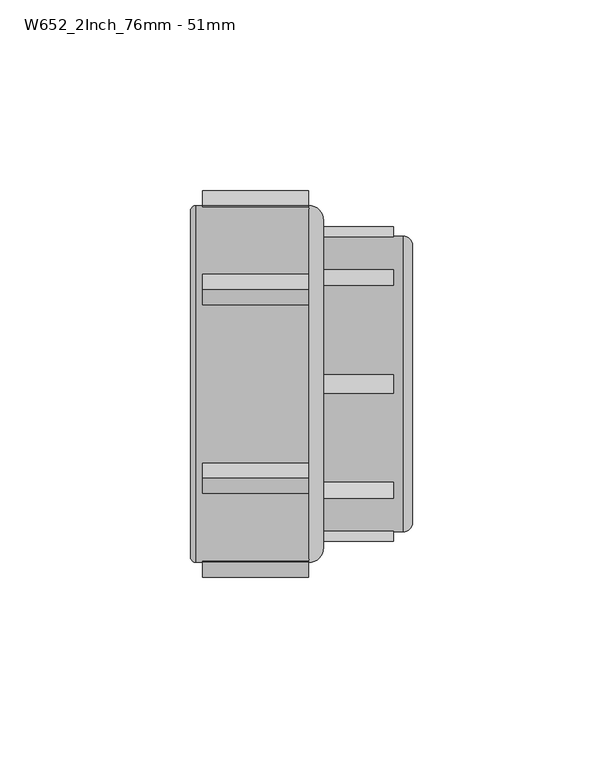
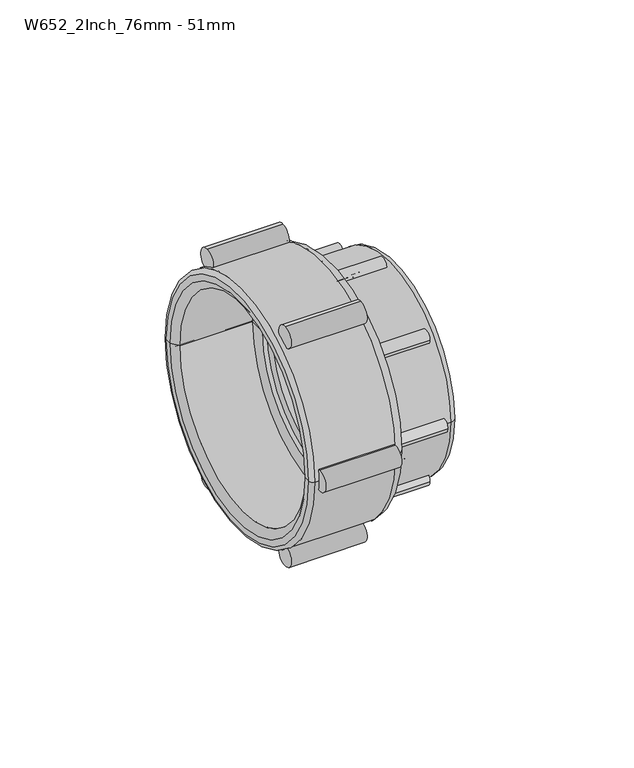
"""IFC4 building model written with IfcOpenShell, lengths in millimetres: pipe fitting geometry, Durapipe_PipeFitting_VulcatheneMechanical_VerticalInlet_W65 : W652_2Inch_76mm - 51mm."""

import ifcopenshell
import ifcopenshell.guid

model = None  # the IFC model being written
_history = None  # IfcOwnerHistory: only IFC2X3 demands one
_inside = {}  # id of a spatial element -> (the spatial element, [elements in it])
_under = {}  # id of a project, library or spatial element -> (it, [spatial elements below it])
_declared = {}  # id of a project -> (the project, [libraries it declares])
_typed = {}  # id of a type object -> (the type object, [elements of that type])
_made_of = {}  # id of a material, layer set ... -> (it, [elements and type objects made of it])


def new_model(schema):
    """Start an empty IFC model of exactly this schema.

    Asked for "IFC4X3", IfcOpenShell would pick the latest addendum, in which some entities
    have other attributes; the version numbers below select the first issue.
    IFC2X3 requires an IfcOwnerHistory on every rooted entity: one is made here for all.
    """
    global model, _history
    if schema == "IFC4X3":
        model = ifcopenshell.file(schema_version=(4, 3, 0, 0))
    else:
        model = ifcopenshell.file(schema=schema)
    _inside.clear()
    _under.clear()
    _declared.clear()
    _typed.clear()
    _made_of.clear()
    _history = None
    if model.schema == "IFC2X3":
        org = make("IfcOrganization", Name="unknown")
        user = make(
            "IfcPersonAndOrganization",
            ThePerson=make("IfcPerson", FamilyName="unknown"),
            TheOrganization=org,
        )
        app = make(
            "IfcApplication",
            ApplicationDeveloper=org,
            Version="unknown",
            ApplicationFullName="unknown",
            ApplicationIdentifier="unknown",
        )
        _history = make(
            "IfcOwnerHistory",
            OwningUser=user,
            OwningApplication=app,
            ChangeAction="ADDED",
            CreationDate=0,
        )
    return model


def make(cls, **values):
    """One entity of the class cls with the attributes given. An attribute that is None is left unset."""
    return model.create_entity(
        cls, **{name: value for name, value in values.items() if value is not None}
    )


def rooted(cls, **values):
    """An entity with a GlobalId (a new one), such as an element, a storey or a relation."""
    return make(cls, GlobalId=ifcopenshell.guid.new(), OwnerHistory=_history, **values)


def si_unit(unit_type, name, prefix=None):
    """IfcSIUnit, for example si_unit("LENGTHUNIT", "METRE", prefix="MILLI")."""
    return make("IfcSIUnit", UnitType=unit_type, Prefix=prefix, Name=name)


def assignment(units):
    """IfcUnitAssignment: the units of a project."""
    return None if units is None else make("IfcUnitAssignment", Units=units)


def point(xyz):
    """IfcCartesianPoint."""
    return None if xyz is None else make("IfcCartesianPoint", Coordinates=xyz)


def direction(xyz):
    """IfcDirection."""
    return None if xyz is None else make("IfcDirection", DirectionRatios=xyz)


def frame(location, z_axis=None, x_axis=None):
    """IfcAxis2Placement3D, a coordinate frame: its origin and axes. An axis left out is left unset."""
    return make(
        "IfcAxis2Placement3D",
        Location=point(location),
        Axis=direction(z_axis),
        RefDirection=direction(x_axis),
    )


def frame_2d(location, x_axis=None):
    """IfcAxis2Placement2D, a coordinate frame in the plane: its origin and x axis."""
    return make(
        "IfcAxis2Placement2D", Location=point(location), RefDirection=direction(x_axis)
    )


def origin():
    """The frame at (0, 0, 0) with its axes left unset."""
    return frame((0.0, 0.0, 0.0))


def place(relative_to, where):
    """IfcLocalPlacement: puts the frame where relative to a parent placement (None: the world)."""
    return make(
        "IfcLocalPlacement", PlacementRelTo=relative_to, RelativePlacement=where
    )


def context(
    kind, dimensions, precision=None, world=None, true_north=None, identifier=None
):
    """IfcGeometricRepresentationContext, for example the 3D "Model" context."""
    return make(
        "IfcGeometricRepresentationContext",
        ContextIdentifier=identifier,
        ContextType=kind,
        CoordinateSpaceDimension=dimensions,
        Precision=precision,
        WorldCoordinateSystem=world,
        TrueNorth=true_north,
    )


def project(units=None, contexts=None):
    """IfcProject with its units and contexts."""
    return rooted(
        "IfcProject",
        Name="project",
        RepresentationContexts=contexts,
        UnitsInContext=assignment(units),
    )


def spatial(cls, under=None, at=None, **own):
    """A site, building, storey or space (cls), placed at a placement, below another one or the project."""
    s = rooted(cls, ObjectPlacement=at, **own)
    if under is not None:
        _under.setdefault(under.id(), (under, []))[1].append(s)
    return s


def polyline(points):
    """IfcPolyline through the points."""
    return make("IfcPolyline", Points=[point(p) for p in points])


def circle_curve(where, radius):
    """IfcCircle in the frame where."""
    return make("IfcCircle", Position=where, Radius=radius)


def ellipse_curve(where, semi_axis1, semi_axis2):
    """IfcEllipse in the frame where."""
    return make(
        "IfcEllipse", Position=where, SemiAxis1=semi_axis1, SemiAxis2=semi_axis2
    )


def trimmed(basis, trim1, trim2, sense, master):
    """IfcTrimmedCurve: the piece of a basis curve between two trims."""
    return make(
        "IfcTrimmedCurve",
        BasisCurve=basis,
        Trim1=trim1,
        Trim2=trim2,
        SenseAgreement=sense,
        MasterRepresentation=master,
    )


def segment(curve, same_sense, transition):
    """IfcCompositeCurveSegment."""
    return make(
        "IfcCompositeCurveSegment",
        Transition=transition,
        SameSense=same_sense,
        ParentCurve=curve,
    )


def composite_curve(segments, self_intersect=None):
    """IfcCompositeCurve: segments joined end to end."""
    return make("IfcCompositeCurve", Segments=segments, SelfIntersect=self_intersect)


def outline(outer, holes=None, kind="AREA"):
    """IfcArbitraryClosedProfileDef: a profile drawn as a closed curve; with holes, ...WithVoids."""
    if holes is None:
        return make("IfcArbitraryClosedProfileDef", ProfileType=kind, OuterCurve=outer)
    return make(
        "IfcArbitraryProfileDefWithVoids",
        ProfileType=kind,
        OuterCurve=outer,
        InnerCurves=holes,
    )


def extrude(swept, where, along, depth):
    """IfcExtrudedAreaSolid: the profile swept, set in the frame where, extruded along a direction by depth."""
    return make(
        "IfcExtrudedAreaSolid",
        SweptArea=swept,
        Position=where,
        ExtrudedDirection=direction(along),
        Depth=depth,
    )


def shape(context_of_items, identifier, shape_type, items):
    """IfcShapeRepresentation: the items that make up one representation, for example the "Body"."""
    return make(
        "IfcShapeRepresentation",
        ContextOfItems=context_of_items,
        RepresentationIdentifier=identifier,
        RepresentationType=shape_type,
        Items=items,
    )


def source(mapping_origin, context_of_items, identifier, shape_type, items):
    """IfcRepresentationMap: a shape defined once, which mapped items show again and again."""
    return make(
        "IfcRepresentationMap",
        MappingOrigin=mapping_origin,
        MappedRepresentation=shape(context_of_items, identifier, shape_type, items),
    )


def transform(
    local_origin,
    x_axis=None,
    y_axis=None,
    z_axis=None,
    scale=None,
    scale2=None,
    scale3=None,
    uniform=True,
):
    """IfcCartesianTransformationOperator3D, or its non-uniform kind. x_axis, y_axis, z_axis: its Axis1, 2, 3."""
    if uniform:
        return make(
            "IfcCartesianTransformationOperator3D",
            Axis1=direction(x_axis),
            Axis2=direction(y_axis),
            LocalOrigin=point(local_origin),
            Scale=scale,
            Axis3=direction(z_axis),
        )
    return make(
        "IfcCartesianTransformationOperator3DnonUniform",
        Axis1=direction(x_axis),
        Axis2=direction(y_axis),
        LocalOrigin=point(local_origin),
        Scale=scale,
        Axis3=direction(z_axis),
        Scale2=scale2,
        Scale3=scale3,
    )


def mapped(mapping_source, mapping_target):
    """IfcMappedItem: shows the shape of a source again, moved by a transform."""
    return make(
        "IfcMappedItem", MappingSource=mapping_source, MappingTarget=mapping_target
    )


def made_of(thing, what):
    """Note that an element or type object is made of a material, layer set ...; save() writes the relation."""
    if what is not None:
        _made_of.setdefault(what.id(), (what, []))[1].append(thing)
    return thing


def element(
    cls,
    number,
    at=None,
    inside=None,
    cuts=None,
    type_object=None,
    material=None,
    context=None,
    identifier="Body",
    shape_type=None,
    held_by="IfcProductDefinitionShape",
    body=None,
    shapes=None,
    **own,
):
    """One element of the class cls, such as IfcWall. Its Tag is "e" and its number.

    at: its placement. inside: the storey or other place that contains it. cuts: it is an
    opening in that element (IfcRelVoidsElement). A single representation is given by context,
    identifier, shape_type and body (its items); several are given by shapes. held_by: the class
    of the entity that holds the representations. save() writes the other relations.
    """
    e = rooted(cls, Tag="e%d" % number, ObjectPlacement=at, **own)
    if body is not None:
        shapes = [shape(context, identifier, shape_type, body)]
    if shapes is not None:
        e.Representation = make(held_by, Representations=shapes)
    if inside is not None:
        _inside.setdefault(inside.id(), (inside, []))[1].append(e)
    if cuts is not None:
        rooted(
            "IfcRelVoidsElement", RelatingBuildingElement=cuts, RelatedOpeningElement=e
        )
    if type_object is not None:
        _typed.setdefault(type_object.id(), (type_object, []))[1].append(e)
    return made_of(e, material)


def aggregate(whole, parts):
    """IfcRelAggregates: a whole, such as a stair, and the parts it consists of."""
    return rooted("IfcRelAggregates", RelatingObject=whole, RelatedObjects=parts)


def save(model, path):
    """Write the relations noted so far, then the file.

    IfcRelAggregates (storeys below a building ...), IfcRelContainedInSpatialStructure (elements
    in a storey), IfcRelDefinesByType, IfcRelAssociatesMaterial and IfcRelDeclares: one each for
    every whole, place, type object, material and project.
    """
    for whole, parts in _under.values():
        aggregate(whole, parts)
    for where, things in _inside.values():
        rooted(
            "IfcRelContainedInSpatialStructure",
            RelatedElements=things,
            RelatingStructure=where,
        )
    for kind, things in _typed.values():
        rooted("IfcRelDefinesByType", RelatedObjects=things, RelatingType=kind)
    for what, things in _made_of.values():
        rooted("IfcRelAssociatesMaterial", RelatedObjects=things, RelatingMaterial=what)
    for by, libraries in _declared.values():
        rooted("IfcRelDeclares", RelatingContext=by, RelatedDefinitions=libraries)
    model.write(path)


def plane_surface(at):
    """IfcPlane: the flat surface through the origin of the frame at, square to its z axis."""
    return make("IfcPlane", Position=at)


def cylinder_surface(at, radius):
    """IfcCylindricalSurface: all points at the distance radius from the z axis of the frame at."""
    return make("IfcCylindricalSurface", Position=at, Radius=radius)


def revolved_surface(curve, axis_point, axis_direction):
    """IfcSurfaceOfRevolution: the curve turned about the line through axis_point along axis_direction."""
    return make(
        "IfcSurfaceOfRevolution",
        SweptCurve=make("IfcArbitraryOpenProfileDef", ProfileType="CURVE", Curve=curve),
        AxisPosition=make("IfcAxis1Placement", Location=point(axis_point), Axis=direction(axis_direction)),
    )


def advanced_brep(points, edges, surfaces, faces):
    """IfcAdvancedBrep: a solid bounded by faces that lie on surfaces and meet in shared edges.

    An edge is (start, end): straight between two places in points (the first is 0);
    or (start, end, curve); or (start, end, curve, False) where it runs against its curve.
    A face is (place in surfaces, loops), or (place, loops, False) where it looks against
    its surface's normal. A loop lists edges by number (the first is 1), with a minus sign
    where the edge is run from its end to its start. The first loop is the outer one.
    """
    corners = [point(p) for p in points]
    vertices = [make("IfcVertexPoint", VertexGeometry=c) for c in corners]
    made = []
    for start, end, *more in edges:
        made.append(
            make(
                "IfcEdgeCurve",
                EdgeStart=vertices[start],
                EdgeEnd=vertices[end],
                EdgeGeometry=more[0] if more else make("IfcPolyline", Points=[corners[start], corners[end]]),
                SameSense=more[1] if len(more) > 1 else True,
            )
        )
    hull = []
    for where, loops, *sense in faces:
        bounds = []
        for j, loop in enumerate(loops):
            ring = [make("IfcOrientedEdge", EdgeElement=made[abs(k) - 1], Orientation=k > 0) for k in loop]
            bounds.append(
                make(
                    "IfcFaceOuterBound" if j == 0 else "IfcFaceBound",
                    Bound=make("IfcEdgeLoop", EdgeList=ring),
                    Orientation=True,
                )
            )
        hull.append(make("IfcAdvancedFace", Bounds=bounds, FaceSurface=surfaces[where], SameSense=sense[0] if sense else True))
    return make("IfcAdvancedBrep", Outer=make("IfcClosedShell", CfsFaces=hull))


def w652_2inch_76mm_51mm_e3760958(model_context):
    return source(origin(), model_context, "Body", "SolidModel", [
        advanced_brep(
        [(23.95, 22.839549, 22.148203), (23.95, -22.839549, -23.5308951), (23.95, -21.2839141, -21.9752601), (23.95, 21.2839141, 20.5925681), (18.35, 22.3445743, 21.6532283), (18.35, -22.3445743, -23.0359203), (16.95, 21.9203102, 21.2289642), (16.95, -21.9203102, -22.6116562), (18.35, -21.9203102, -22.6116562), (18.35, 21.9203102, 21.2289642), (16.95, 20.9303607, 20.2390147), (16.95, -20.9303607, -21.6217067), (19.25, 20.9303607, 20.2390147), (19.25, -20.9303607, -21.6217067), (19.25, 20.647518, 19.956172), (19.25, -20.647518, -21.338864), (21.45, 21.2839141, 20.5925681), (21.45, -21.2839141, -21.9752601), (21.45, -20.647518, -21.338864), (21.45, 20.647518, 19.956172)],
        [
            (0, 1, circle_curve(frame((23.95, 0.0, -0.691346), z_axis=(1.0, 0.0, 0.0), x_axis=(0.0, -0.7071067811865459, -0.7071067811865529)), 32.3)),
            (1, 2),
            (2, 3, circle_curve(frame((23.95, 0.0, -0.691346), z_axis=(-1.0, 0.0, 0.0), x_axis=(0.0, -0.7071067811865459, -0.7071067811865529)), 30.1)),
            (3, 0),
            (1, 0, circle_curve(frame((23.95, 0.0, -0.691346), z_axis=(1.0, 0.0, 0.0), x_axis=(0.0, -0.7071067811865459, -0.7071067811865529)), 32.3)),
            (3, 2, circle_curve(frame((23.95, 0.0, -0.691346), z_axis=(-1.0, 0.0, 0.0), x_axis=(0.0, -0.7071067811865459, -0.7071067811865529)), 30.1)),
            (4, 5, circle_curve(frame((18.35, 0.0, -0.691346), z_axis=(1.0, 0.0, 0.0), x_axis=(0.0, -0.7071067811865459, -0.7071067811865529)), 31.6)),
            (5, 1),
            (0, 4),
            (5, 4, circle_curve(frame((18.35, 0.0, -0.691346), z_axis=(1.0, 0.0, 0.0), x_axis=(0.0, -0.7071067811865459, -0.7071067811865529)), 31.6)),
            (6, 7, circle_curve(frame((16.95, 0.0, -0.691346), z_axis=(1.0, 0.0, 0.0), x_axis=(0.0, -0.7071067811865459, -0.7071067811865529)), 31.0)),
            (7, 8),
            (8, 9, circle_curve(frame((18.35, 0.0, -0.691346), z_axis=(-1.0, 0.0, 0.0), x_axis=(0.0, -0.7071067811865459, -0.7071067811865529)), 31.0)),
            (9, 6),
            (7, 6, circle_curve(frame((16.95, 0.0, -0.691346), z_axis=(1.0, 0.0, 0.0), x_axis=(0.0, -0.7071067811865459, -0.7071067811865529)), 31.0)),
            (9, 8, circle_curve(frame((18.35, 0.0, -0.691346), z_axis=(-1.0, 0.0, 0.0), x_axis=(0.0, -0.7071067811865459, -0.7071067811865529)), 31.0)),
            (6, 10),
            (10, 11, circle_curve(frame((16.95, 0.0, -0.691346), z_axis=(1.0, 0.0, 0.0), x_axis=(0.0, -0.7071067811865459, -0.7071067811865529)), 29.6)),
            (11, 7),
            (11, 10, circle_curve(frame((16.95, 0.0, -0.691346), z_axis=(1.0, 0.0, 0.0), x_axis=(0.0, -0.7071067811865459, -0.7071067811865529)), 29.6)),
            (10, 12),
            (12, 13, circle_curve(frame((19.25, 0.0, -0.691346), z_axis=(1.0, 0.0, 0.0), x_axis=(0.0, -0.7071067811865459, -0.7071067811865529)), 29.6)),
            (13, 11),
            (13, 12, circle_curve(frame((19.25, 0.0, -0.691346), z_axis=(1.0, 0.0, 0.0), x_axis=(0.0, -0.7071067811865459, -0.7071067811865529)), 29.6)),
            (12, 14),
            (14, 15, circle_curve(frame((19.25, 0.0, -0.691346), z_axis=(1.0, 0.0, 0.0), x_axis=(0.0, -0.7071067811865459, -0.7071067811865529)), 29.2)),
            (15, 13),
            (15, 14, circle_curve(frame((19.25, 0.0, -0.691346), z_axis=(1.0, 0.0, 0.0), x_axis=(0.0, -0.7071067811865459, -0.7071067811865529)), 29.2)),
            (16, 17, circle_curve(frame((21.45, 0.0, -0.691346), z_axis=(1.0, 0.0, 0.0), x_axis=(0.0, -0.7071067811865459, -0.7071067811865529)), 30.1)),
            (17, 18),
            (18, 19, circle_curve(frame((21.45, 0.0, -0.691346), z_axis=(-1.0, 0.0, 0.0), x_axis=(0.0, -0.7071067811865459, -0.7071067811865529)), 29.2)),
            (19, 16),
            (17, 16, circle_curve(frame((21.45, 0.0, -0.691346), z_axis=(1.0, 0.0, 0.0), x_axis=(0.0, -0.7071067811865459, -0.7071067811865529)), 30.1)),
            (19, 18, circle_curve(frame((21.45, 0.0, -0.691346), z_axis=(-1.0, 0.0, 0.0), x_axis=(0.0, -0.7071067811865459, -0.7071067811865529)), 29.2)),
            (2, 17),
            (16, 3),
            (14, 19),
            (18, 15),
            (4, 9),
            (8, 5),
        ],
        [
            plane_surface(frame((23.95, 0.0, -0.691346), z_axis=(1.0, 0.0, 0.0), x_axis=(0.0, -0.707106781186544, -0.707106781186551))),
            revolved_surface(polyline([(23.95, -22.839549, -23.5308951), (18.35, -22.3445743, -23.0359203)]), (28.95, 0.0, -0.691346), (-1.0000000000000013, 0.0, 0.0)),
            cylinder_surface(frame((14.8793443, 0.0, -0.691346), z_axis=(-1.0000000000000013, 0.0, 0.0), x_axis=(0.0, -0.7071067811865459, -0.7071067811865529)), 31.0),
            plane_surface(frame((16.95, 0.0, -0.691346), z_axis=(-1.0, 0.0, 0.0), x_axis=(0.0, -0.707106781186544, -0.707106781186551))),
            revolved_surface(polyline([(16.95000000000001, -20.93036072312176, -21.621706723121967), (19.250000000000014, -20.93036072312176, -21.621706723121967)]), (13.457009, 0.0, -0.691346), (-1.0000000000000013, 0.0, 0.0)),
            plane_surface(frame((19.25, 0.0, -0.691346), z_axis=(-1.0, 0.0, 0.0), x_axis=(0.0, -0.707106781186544, -0.707106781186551))),
            plane_surface(frame((21.45, 0.0, -0.691346), z_axis=(1.0, 0.0, 0.0), x_axis=(0.0, -0.707106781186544, -0.707106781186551))),
            revolved_surface(polyline([(21.44999999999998, -21.28391411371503, -21.975260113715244), (23.949999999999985, -21.28391411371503, -21.975260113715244)]), (28.95, 0.0, -0.691346), (-1.0000000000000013, 0.0, 0.0)),
            revolved_surface(polyline([(19.249999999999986, -20.64751801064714, -21.338864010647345), (21.44999999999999, -20.64751801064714, -21.338864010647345)]), (25.5161924, 0.0, -0.691346), (-1.0000000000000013, 0.0, 0.0)),
            plane_surface(frame((18.35, 0.0, -0.691346), z_axis=(-1.0, 0.0, 0.0), x_axis=(0.0, -0.707106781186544, -0.707106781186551))),
        ],
        [
            (0, [[1, 2, 3, 4]]),
            (0, [[-2, 5, -4, 6]]),
            (1, [[7, 8, -1, 9]]),
            (1, [[10, -9, -5, -8]]),
            (2, [[11, 12, 13, 14]]),
            (2, [[-12, 15, -14, 16]]),
            (3, [[-11, 17, 18, 19]]),
            (3, [[-15, -19, 20, -17]]),
            (4, [[21, 22, 23, -18]]),
            (4, [[-21, -20, -23, 24]]),
            (5, [[-22, 25, 26, 27]]),
            (5, [[-24, -27, 28, -25]]),
            (6, [[29, 30, 31, 32]]),
            (6, [[33, -32, 34, -30]]),
            (7, [[-3, 35, -29, 36]]),
            (7, [[-6, -36, -33, -35]]),
            (8, [[37, -31, 38, -26]]),
            (8, [[-37, -28, -38, -34]]),
            (9, [[-7, 39, -13, 40]]),
            (9, [[-10, -40, -16, -39]]),
        ],
    ),
        advanced_brep(
        [(2.45, 38.8, -0.691346), (2.45, -38.8, -0.691346), (25.35, -38.8, -0.691346), (25.35, 38.8, -0.691346), (2.45, 33.0, -0.691346), (2.45, -33.0, -0.691346), (27.85, 36.3, -0.691346), (27.85, -36.3, -0.691346), (27.85, -31.0, -0.691346), (27.85, 31.0, -0.691346), (23.95, 33.0, -0.691346), (23.95, -33.0, -0.691346), (23.95, 31.0, -0.691346), (23.95, -31.0, -0.691346)],
        [
            (0, 1, circle_curve(frame((2.45, 0.0, -0.691346), z_axis=(1.0, 0.0, 0.0), x_axis=(0.0, -1.0000000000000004, 0.0)), 38.8)),
            (1, 2),
            (2, 3, circle_curve(frame((25.35, 0.0, -0.691346), z_axis=(-1.0, 0.0, 0.0), x_axis=(0.0, -1.0000000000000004, 0.0)), 38.8)),
            (3, 0),
            (1, 0, circle_curve(frame((2.45, 0.0, -0.691346), z_axis=(1.0, 0.0, 0.0), x_axis=(0.0, -1.0000000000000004, 0.0)), 38.8)),
            (3, 2, circle_curve(frame((25.35, 0.0, -0.691346), z_axis=(-1.0, 0.0, 0.0), x_axis=(0.0, -1.0000000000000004, 0.0)), 38.8)),
            (4, 5, circle_curve(frame((2.45, 0.0, -0.691346), z_axis=(1.0, 0.0, 0.0), x_axis=(0.0, -1.0000000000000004, 0.0)), 33.0)),
            (5, 1),
            (0, 4),
            (5, 4, circle_curve(frame((2.45, 0.0, -0.691346), z_axis=(1.0, 0.0, 0.0), x_axis=(0.0, -1.0000000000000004, 0.0)), 33.0)),
            (6, 7, circle_curve(frame((27.85, 0.0, -0.691346), z_axis=(1.0, 0.0, 0.0), x_axis=(0.0, -1.0000000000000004, 0.0)), 36.3)),
            (7, 8),
            (8, 9, circle_curve(frame((27.85, 0.0, -0.691346), z_axis=(-1.0, 0.0, 0.0), x_axis=(0.0, -1.0000000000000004, 0.0)), 31.0)),
            (9, 6),
            (7, 6, circle_curve(frame((27.85, 0.0, -0.691346), z_axis=(1.0, 0.0, 0.0), x_axis=(0.0, -1.0000000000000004, 0.0)), 36.3)),
            (9, 8, circle_curve(frame((27.85, 0.0, -0.691346), z_axis=(-1.0, 0.0, 0.0), x_axis=(0.0, -1.0000000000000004, 0.0)), 31.0)),
            (2, 7, circle_curve(frame((25.35, -36.3, -0.691346), z_axis=(0.0, 0.0, 1.0000000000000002), x_axis=(1.0000000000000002, 0.0, 0.0)), 2.5)),
            (6, 3, circle_curve(frame((25.35, 36.3, -0.691346), z_axis=(0.0, 0.0, 1.0000000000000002), x_axis=(1.0000000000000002, 0.0, 0.0)), 2.5)),
            (10, 11, circle_curve(frame((23.95, 0.0, -0.691346), z_axis=(1.0, 0.0, 0.0), x_axis=(0.0, -1.0000000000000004, 0.0)), 33.0)),
            (11, 5),
            (4, 10),
            (11, 10, circle_curve(frame((23.95, 0.0, -0.691346), z_axis=(1.0, 0.0, 0.0), x_axis=(0.0, -1.0000000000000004, 0.0)), 33.0)),
            (12, 13, circle_curve(frame((23.95, 0.0, -0.691346), z_axis=(1.0, 0.0, 0.0), x_axis=(0.0, -1.0000000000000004, 0.0)), 31.0)),
            (13, 11),
            (10, 12),
            (13, 12, circle_curve(frame((23.95, 0.0, -0.691346), z_axis=(1.0, 0.0, 0.0), x_axis=(0.0, -1.0000000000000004, 0.0)), 31.0)),
            (8, 13),
            (12, 9),
        ],
        [
            cylinder_surface(frame((1588.6518184, 0.0, -0.691346), z_axis=(-1.0000000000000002, 0.0, 0.0), x_axis=(0.0, -1.0000000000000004, 0.0)), 38.8),
            plane_surface(frame((2.45, 0.0, -0.691346), z_axis=(-1.0, 0.0, 0.0), x_axis=(0.0, -1.0, 0.0))),
            plane_surface(frame((27.85, 0.0, -0.691346), z_axis=(1.0, 0.0, 0.0), x_axis=(0.0, -1.0, 0.0))),
            revolved_surface(trimmed(ellipse_curve(frame((25.35, -36.3, -0.691346), z_axis=(0.0, 0.0, -1.0000000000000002), x_axis=(1.0000000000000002, 0.0, 0.0)), 2.5, 2.5), [point((27.85, -36.3, -0.691346))], [point((25.35, -38.8, -0.691346))], True, "CARTESIAN"), (1588.6518184, 0.0, -0.691346), (-1.0000000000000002, 0.0, 0.0)),
            revolved_surface(polyline([(2.449999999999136, -33.000000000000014, -0.691346), (23.949999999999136, -33.000000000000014, -0.691346)]), (1588.6518184, 0.0, -0.691346), (-1.0000000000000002, 0.0, 0.0)),
            plane_surface(frame((23.95, 0.0, -0.691346), z_axis=(-1.0, 0.0, 0.0), x_axis=(0.0, -1.0, 0.0))),
            revolved_surface(polyline([(23.949999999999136, -31.000000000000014, -0.691346), (27.849999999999, -31.000000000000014, -0.691346)]), (1588.6518184, 0.0, -0.691346), (-1.0000000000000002, 0.0, 0.0)),
        ],
        [
            (0, [[1, 2, 3, 4]]),
            (0, [[5, -4, 6, -2]]),
            (1, [[7, 8, -1, 9]]),
            (1, [[10, -9, -5, -8]]),
            (2, [[11, 12, 13, 14]]),
            (2, [[15, -14, 16, -12]]),
            (3, [[-3, 17, -11, 18]]),
            (3, [[-6, -18, -15, -17]]),
            (4, [[19, 20, -7, 21]]),
            (4, [[22, -21, -10, -20]]),
            (5, [[23, 24, -19, 25]]),
            (5, [[26, -25, -22, -24]]),
            (6, [[-13, 27, -23, 28]]),
            (6, [[-16, -28, -26, -27]]),
        ],
    ),
        extrude(outline(composite_curve([segment(trimmed(circle_curve(frame_2d((0.0, -39.491346)), 2.5), [point((2.5, -39.491346))], [point((-2.5, -39.491346))], False, "CARTESIAN"), True, "CONTINUOUS"), segment(trimmed(circle_curve(frame_2d((0.0, -39.491346)), 2.5), [point((-2.5, -39.491346))], [point((2.5, -39.491346))], False, "CARTESIAN"), True, "CONTINUOUS")], self_intersect=False)), frame((2.45, 0.0, 0.0), z_axis=(1.0, 0.0, 0.0), x_axis=(0.0, 1.0, 0.0)), (0.0, 0.0, 1.0), 20.4),
        extrude(outline(composite_curve([segment(trimmed(circle_curve(frame_2d((-27.4357431, -28.1270891)), 2.5), [point((-24.9357431, -28.1270891))], [point((-29.9357431, -28.1270891))], False, "CARTESIAN"), True, "CONTINUOUS"), segment(trimmed(circle_curve(frame_2d((-27.4357431, -28.1270891)), 2.5), [point((-29.9357431, -28.1270891))], [point((-24.9357431, -28.1270891))], False, "CARTESIAN"), True, "CONTINUOUS")], self_intersect=False)), frame((2.45, 0.0, 0.0), z_axis=(1.0, 0.0, 0.0), x_axis=(0.0, 1.0, 0.0)), (0.0, 0.0, 1.0), 20.4),
        extrude(outline(composite_curve([segment(trimmed(circle_curve(frame_2d((-38.8, -0.691346)), 2.5), [point((-36.3, -0.691346))], [point((-41.3, -0.691346))], False, "CARTESIAN"), True, "CONTINUOUS"), segment(trimmed(circle_curve(frame_2d((-38.8, -0.691346)), 2.5), [point((-41.3, -0.691346))], [point((-36.3, -0.691346))], False, "CARTESIAN"), True, "CONTINUOUS")], self_intersect=False)), frame((2.45, 0.0, 0.0), z_axis=(1.0, 0.0, 0.0), x_axis=(0.0, 1.0, 0.0)), (0.0, 0.0, 1.0), 20.4),
        extrude(outline(composite_curve([segment(trimmed(circle_curve(frame_2d((-27.4357431, 26.7443971)), 2.5), [point((-24.9357431, 26.7443971))], [point((-29.9357431, 26.7443971))], False, "CARTESIAN"), True, "CONTINUOUS"), segment(trimmed(circle_curve(frame_2d((-27.4357431, 26.7443971)), 2.5), [point((-29.9357431, 26.7443971))], [point((-24.9357431, 26.7443971))], False, "CARTESIAN"), True, "CONTINUOUS")], self_intersect=False)), frame((2.45, 0.0, 0.0), z_axis=(1.0, 0.0, 0.0), x_axis=(0.0, 1.0, 0.0)), (0.0, 0.0, 1.0), 20.4),
        extrude(outline(composite_curve([segment(trimmed(circle_curve(frame_2d((0.0, 38.108654)), 2.5), [point((2.5, 38.108654))], [point((-2.5, 38.108654))], False, "CARTESIAN"), True, "CONTINUOUS"), segment(trimmed(circle_curve(frame_2d((0.0, 38.108654)), 2.5), [point((-2.5, 38.108654))], [point((2.5, 38.108654))], False, "CARTESIAN"), True, "CONTINUOUS")], self_intersect=False)), frame((2.45, 0.0, 0.0), z_axis=(1.0, 0.0, 0.0), x_axis=(0.0, 1.0, 0.0)), (0.0, 0.0, 1.0), 20.4),
        extrude(outline(composite_curve([segment(trimmed(circle_curve(frame_2d((27.4357431, 26.7443971)), 2.5), [point((29.9357431, 26.7443971))], [point((24.9357431, 26.7443971))], False, "CARTESIAN"), True, "CONTINUOUS"), segment(trimmed(circle_curve(frame_2d((27.4357431, 26.7443971)), 2.5), [point((24.9357431, 26.7443971))], [point((29.9357431, 26.7443971))], False, "CARTESIAN"), True, "CONTINUOUS")], self_intersect=False)), frame((2.45, 0.0, 0.0), z_axis=(1.0, 0.0, 0.0), x_axis=(0.0, 1.0, 0.0)), (0.0, 0.0, 1.0), 20.4),
        extrude(outline(composite_curve([segment(trimmed(circle_curve(frame_2d((38.8, -0.691346)), 2.5), [point((41.3, -0.691346))], [point((36.3, -0.691346))], False, "CARTESIAN"), True, "CONTINUOUS"), segment(trimmed(circle_curve(frame_2d((38.8, -0.691346)), 2.5), [point((36.3, -0.691346))], [point((41.3, -0.691346))], False, "CARTESIAN"), True, "CONTINUOUS")], self_intersect=False)), frame((2.45, 0.0, 0.0), z_axis=(1.0, 0.0, 0.0), x_axis=(0.0, 1.0, 0.0)), (0.0, 0.0, 1.0), 20.4),
        extrude(outline(composite_curve([segment(trimmed(circle_curve(frame_2d((27.4357431, -28.1270891)), 2.5), [point((29.9357431, -28.1270891))], [point((24.9357431, -28.1270891))], False, "CARTESIAN"), True, "CONTINUOUS"), segment(trimmed(circle_curve(frame_2d((27.4357431, -28.1270891)), 2.5), [point((24.9357431, -28.1270891))], [point((29.9357431, -28.1270891))], False, "CARTESIAN"), True, "CONTINUOUS")], self_intersect=False)), frame((2.45, 0.0, 0.0), z_axis=(1.0, 0.0, 0.0), x_axis=(0.0, 1.0, 0.0)), (0.0, 0.0, 1.0), 20.4),
        extrude(outline(composite_curve([segment(trimmed(circle_curve(frame_2d((-46.7488124, 0.0)), 4.0), [point((-46.7488124, -4.0))], [point((-46.7488124, 4.0))], False, "CARTESIAN"), True, "CONTINUOUS"), segment(trimmed(circle_curve(frame_2d((-46.7488124, 0.0)), 4.0), [point((-46.7488124, 4.0))], [point((-46.7488124, -4.0))], False, "CARTESIAN"), True, "CONTINUOUS")], self_intersect=False)), frame((-27.275, 0.0, 0.0), z_axis=(1.0, 0.0, 0.0), x_axis=(0.0, 1.0, 0.0)), (0.0, 0.0, 1.0), 27.78),
        extrude(outline(composite_curve([segment(trimmed(circle_curve(frame_2d((46.7488124, 0.0)), 4.0), [point((46.7488124, -4.0))], [point((46.7488124, 4.0))], False, "CARTESIAN"), True, "CONTINUOUS"), segment(trimmed(circle_curve(frame_2d((46.7488124, 0.0)), 4.0), [point((46.7488124, 4.0))], [point((46.7488124, -4.0))], False, "CARTESIAN"), True, "CONTINUOUS")], self_intersect=False)), frame((-27.275, 0.0, 0.0), z_axis=(1.0, 0.0, 0.0), x_axis=(0.0, 1.0, 0.0)), (0.0, 0.0, 1.0), 27.78),
        extrude(outline(composite_curve([segment(trimmed(circle_curve(frame_2d((-24.7569018, -42.3688127)), 4.0), [point((-24.7569018, -46.3688127))], [point((-24.7569018, -38.3688127))], False, "CARTESIAN"), True, "CONTINUOUS"), segment(trimmed(circle_curve(frame_2d((-24.7569018, -42.3688127)), 4.0), [point((-24.7569018, -38.3688127))], [point((-24.7569018, -46.3688127))], False, "CARTESIAN"), True, "CONTINUOUS")], self_intersect=False)), frame((-27.275, 0.0, 0.0), z_axis=(1.0, 0.0, 0.0), x_axis=(0.0, 1.0, 0.0)), (0.0, 0.0, 1.0), 27.78),
        extrude(outline(composite_curve([segment(trimmed(circle_curve(frame_2d((24.7569018, 42.3688127)), 4.0), [point((24.7569018, 38.3688127))], [point((24.7569018, 46.3688127))], False, "CARTESIAN"), True, "CONTINUOUS"), segment(trimmed(circle_curve(frame_2d((24.7569018, 42.3688127)), 4.0), [point((24.7569018, 46.3688127))], [point((24.7569018, 38.3688127))], False, "CARTESIAN"), True, "CONTINUOUS")], self_intersect=False)), frame((-27.275, 0.0, 0.0), z_axis=(1.0, 0.0, 0.0), x_axis=(0.0, 1.0, 0.0)), (0.0, 0.0, 1.0), 27.78),
        extrude(outline(composite_curve([segment(trimmed(circle_curve(frame_2d((24.7569018, -42.3688127)), 4.0), [point((24.7569018, -46.3688127))], [point((24.7569018, -38.3688127))], False, "CARTESIAN"), True, "CONTINUOUS"), segment(trimmed(circle_curve(frame_2d((24.7569018, -42.3688127)), 4.0), [point((24.7569018, -38.3688127))], [point((24.7569018, -46.3688127))], False, "CARTESIAN"), True, "CONTINUOUS")], self_intersect=False)), frame((-27.275, 0.0, 0.0), z_axis=(1.0, 0.0, 0.0), x_axis=(0.0, 1.0, 0.0)), (0.0, 0.0, 1.0), 27.78),
        extrude(outline(composite_curve([segment(trimmed(circle_curve(frame_2d((-24.7569018, 42.3688127)), 4.0), [point((-24.7569018, 38.3688127))], [point((-24.7569018, 46.3688127))], False, "CARTESIAN"), True, "CONTINUOUS"), segment(trimmed(circle_curve(frame_2d((-24.7569018, 42.3688127)), 4.0), [point((-24.7569018, 46.3688127))], [point((-24.7569018, 38.3688127))], False, "CARTESIAN"), True, "CONTINUOUS")], self_intersect=False)), frame((-27.275, 0.0, 0.0), z_axis=(1.0, 0.0, 0.0), x_axis=(0.0, 1.0, 0.0)), (0.0, 0.0, 1.0), 27.78),
        advanced_brep(
        [(-1.875, -40.0, 0.0), (-1.875, 40.0, 0.0), (-28.3527451, 40.0, 0.0), (-28.3527451, -40.0, 0.0), (-1.875, -33.7292025, 0.0), (-1.875, 33.7292025, 0.0), (-0.2875, -33.7292025, 0.0), (-0.2875, 33.7292025, 0.0), (-0.2875, -29.7427598, 0.0), (-0.2875, 29.7427598, 0.0), (4.475, -29.7427598, 0.0), (4.475, 29.7427598, 0.0), (4.475, -42.9951904, 0.0), (4.475, 42.9951904, 0.0), (0.637074, -46.8331164, 0.0), (0.637074, 46.8331164, 0.0), (-28.95, -46.8331164, 0.0), (-28.95, 46.8331164, 0.0), (-30.45, -45.3331164, 0.0), (-30.45, 45.3331164, 0.0), (-30.45, -42.9951904, 0.0), (-30.45, 42.9951904, 0.0)],
        [
            (0, 1, circle_curve(frame((-1.875, 0.0, 0.0), z_axis=(1.0, 0.0, 0.0), x_axis=(0.0, 1.0, 0.0)), 40.0)),
            (1, 2),
            (2, 3, circle_curve(frame((-28.3527451, 0.0, 0.0), z_axis=(-1.0, 0.0, 0.0), x_axis=(0.0, 1.0, 0.0)), 40.0)),
            (3, 0),
            (1, 0, circle_curve(frame((-1.875, 0.0, 0.0), z_axis=(1.0, 0.0, 0.0), x_axis=(0.0, 1.0, 0.0)), 40.0)),
            (3, 2, circle_curve(frame((-28.3527451, 0.0, 0.0), z_axis=(-1.0, 0.0, 0.0), x_axis=(0.0, 1.0, 0.0)), 40.0)),
            (4, 5, circle_curve(frame((-1.875, 0.0, 0.0), z_axis=(1.0, 0.0, 0.0), x_axis=(0.0, 1.0, 0.0)), 33.7292025)),
            (5, 1),
            (0, 4),
            (5, 4, circle_curve(frame((-1.875, 0.0, 0.0), z_axis=(1.0, 0.0, 0.0), x_axis=(0.0, 1.0, 0.0)), 33.7292025)),
            (6, 7, circle_curve(frame((-0.2875, 0.0, 0.0), z_axis=(1.0, 0.0, 0.0), x_axis=(0.0, 1.0, 0.0)), 33.7292025)),
            (7, 5),
            (4, 6),
            (7, 6, circle_curve(frame((-0.2875, 0.0, 0.0), z_axis=(1.0, 0.0, 0.0), x_axis=(0.0, 1.0, 0.0)), 33.7292025)),
            (8, 9, circle_curve(frame((-0.2875, 0.0, 0.0), z_axis=(1.0, 0.0, 0.0), x_axis=(0.0, 1.0, 0.0)), 29.7427598)),
            (9, 7),
            (6, 8),
            (9, 8, circle_curve(frame((-0.2875, 0.0, 0.0), z_axis=(1.0, 0.0, 0.0), x_axis=(0.0, 1.0, 0.0)), 29.7427598)),
            (10, 11, circle_curve(frame((4.475, 0.0, 0.0), z_axis=(1.0, 0.0, 0.0), x_axis=(0.0, 1.0, 0.0)), 29.7427598)),
            (11, 9),
            (8, 10),
            (11, 10, circle_curve(frame((4.475, 0.0, 0.0), z_axis=(1.0, 0.0, 0.0), x_axis=(0.0, 1.0, 0.0)), 29.7427598)),
            (12, 13, circle_curve(frame((4.475, 0.0, 0.0), z_axis=(1.0, 0.0, 0.0), x_axis=(0.0, 1.0, 0.0)), 42.9951904)),
            (13, 11),
            (10, 12),
            (13, 12, circle_curve(frame((4.475, 0.0, 0.0), z_axis=(1.0, 0.0, 0.0), x_axis=(0.0, 1.0, 0.0)), 42.9951904)),
            (14, 15, circle_curve(frame((0.637074, 0.0, 0.0), z_axis=(1.0, 0.0, 0.0), x_axis=(0.0, 1.0, 0.0)), 46.8331164)),
            (15, 13, circle_curve(frame((0.637074, 42.9951904, 0.0), z_axis=(0.0, 0.0, -1.0), x_axis=(1.0, 0.0, 0.0)), 3.837926)),
            (12, 14, circle_curve(frame((0.637074, -42.9951904, 0.0), z_axis=(0.0, 0.0, -1.0), x_axis=(1.0, 0.0, 0.0)), 3.837926)),
            (15, 14, circle_curve(frame((0.637074, 0.0, 0.0), z_axis=(1.0, 0.0, 0.0), x_axis=(0.0, 1.0, 0.0)), 46.8331164)),
            (16, 17, circle_curve(frame((-28.95, 0.0, 0.0), z_axis=(1.0, 0.0, 0.0), x_axis=(0.0, 1.0, 0.0)), 46.8331164)),
            (17, 15),
            (14, 16),
            (17, 16, circle_curve(frame((-28.95, 0.0, 0.0), z_axis=(1.0, 0.0, 0.0), x_axis=(0.0, 1.0, 0.0)), 46.8331164)),
            (18, 19, circle_curve(frame((-30.45, 0.0, 0.0), z_axis=(1.0, 0.0, 0.0), x_axis=(0.0, 1.0, 0.0)), 45.3331164)),
            (19, 17, circle_curve(frame((-28.95, 45.3331164, 0.0), z_axis=(0.0, 0.0, -1.0), x_axis=(1.0, 0.0, 0.0)), 1.5)),
            (16, 18, circle_curve(frame((-28.95, -45.3331164, 0.0), z_axis=(0.0, 0.0, -1.0), x_axis=(1.0, 0.0, 0.0)), 1.5)),
            (19, 18, circle_curve(frame((-30.45, 0.0, 0.0), z_axis=(1.0, 0.0, 0.0), x_axis=(0.0, 1.0, 0.0)), 45.3331164)),
            (20, 21, circle_curve(frame((-30.45, 0.0, 0.0), z_axis=(1.0, 0.0, 0.0), x_axis=(0.0, 1.0, 0.0)), 42.9951904)),
            (21, 19),
            (18, 20),
            (21, 20, circle_curve(frame((-30.45, 0.0, 0.0), z_axis=(1.0, 0.0, 0.0), x_axis=(0.0, 1.0, 0.0)), 42.9951904)),
            (2, 21),
            (20, 3),
        ],
        [
            revolved_surface(polyline([(-28.3527451, 40.0, 0.0), (-1.875, 40.0, 0.0)]), (-42.3198389, 0.0, 0.0), (-1.0, 0.0, 0.0)),
            plane_surface(frame((-1.875, 0.0, 0.0), z_axis=(-1.0, 0.0, 0.0), x_axis=(0.0, 1.0, 0.0))),
            revolved_surface(polyline([(-1.875, 33.7292025, 0.0), (-0.2875000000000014, 33.7292025, 0.0)]), (-42.3198389, 0.0, 0.0), (-1.0, 0.0, 0.0)),
            plane_surface(frame((-0.2875, 0.0, 0.0), z_axis=(-1.0, 0.0, 0.0), x_axis=(0.0, 1.0, 0.0))),
            revolved_surface(polyline([(-0.2875000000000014, 29.7427598, 0.0), (4.475000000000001, 29.7427598, 0.0)]), (-42.3198389, 0.0, 0.0), (-1.0, 0.0, 0.0)),
            plane_surface(frame((4.475, 0.0, 0.0), z_axis=(1.0, 0.0, 0.0), x_axis=(0.0, 1.0, 0.0))),
            revolved_surface(trimmed(ellipse_curve(frame((0.637074, 42.9951904, 0.0), z_axis=(0.0, 0.0, 1.0), x_axis=(1.0, 0.0, 0.0)), 3.837926, 3.837926), [point((4.475, 42.9951904, 0.0))], [point((0.637074, 46.8331164, 0.0))], True, "CARTESIAN"), (-42.3198389, 0.0, 0.0), (-1.0, 0.0, 0.0)),
            cylinder_surface(frame((-42.3198389, 0.0, 0.0), z_axis=(-1.0, 0.0, 0.0), x_axis=(0.0, 1.0, 0.0)), 46.8331164),
            revolved_surface(trimmed(ellipse_curve(frame((-28.95, 45.3331164, 0.0), z_axis=(0.0, 0.0, 1.0), x_axis=(1.0, 0.0, 0.0)), 1.5, 1.5), [point((-28.95, 46.8331164, 0.0))], [point((-30.45, 45.3331164, 0.0))], True, "CARTESIAN"), (-42.3198389, 0.0, 0.0), (-1.0, 0.0, 0.0)),
            plane_surface(frame((-30.45, 0.0, 0.0), z_axis=(-1.0, 0.0, 0.0), x_axis=(0.0, 1.0, 0.0))),
            revolved_surface(polyline([(-30.45, 42.9951904, 0.0), (-28.3527451, 40.0, 0.0)]), (-42.3198389, 0.0, 0.0), (-1.0, 0.0, 0.0)),
        ],
        [
            (0, [[1, 2, 3, 4]]),
            (0, [[5, -4, 6, -2]]),
            (1, [[7, 8, -1, 9]]),
            (1, [[10, -9, -5, -8]]),
            (2, [[11, 12, -7, 13]]),
            (2, [[14, -13, -10, -12]]),
            (3, [[15, 16, -11, 17]]),
            (3, [[18, -17, -14, -16]]),
            (4, [[19, 20, -15, 21]]),
            (4, [[22, -21, -18, -20]]),
            (5, [[23, 24, -19, 25]]),
            (5, [[26, -25, -22, -24]]),
            (6, [[27, 28, -23, 29]]),
            (6, [[30, -29, -26, -28]]),
            (7, [[31, 32, -27, 33]]),
            (7, [[34, -33, -30, -32]]),
            (8, [[35, 36, -31, 37]]),
            (8, [[38, -37, -34, -36]]),
            (9, [[39, 40, -35, 41]]),
            (9, [[42, -41, -38, -40]]),
            (10, [[-3, 43, -39, 44]]),
            (10, [[-6, -44, -42, -43]]),
        ],
    ),
    ])


if __name__ == "__main__":
    model = new_model("IFC4")
    model_context = context("Model", 3, world=origin())
    ifc_project = project(units=[si_unit("LENGTHUNIT", "METRE", prefix="MILLI")], contexts=[model_context])
    site = spatial("IfcSite", under=ifc_project)
    building = spatial("IfcBuilding", under=site)
    placement = place(None, origin())
    w652_2inch_76mm_51mm_shape = w652_2inch_76mm_51mm_e3760958(model_context)
    element("IfcPipeFitting", 1, ObjectType="Durapipe_PipeFitting_VulcatheneMechanical_VerticalInlet_W65 : W652_2Inch_76mm - 51mm", at=placement, inside=building, context=model_context, shape_type="MappedRepresentation", body=[
        mapped(w652_2inch_76mm_51mm_shape, transform((0.0, 0.0, 0.0), x_axis=(1.0, 0.0, 0.0), y_axis=(0.0, 1.0, 0.0), z_axis=(0.0, 0.0, 1.0))),
    ])
    save(model, "model.ifc")
